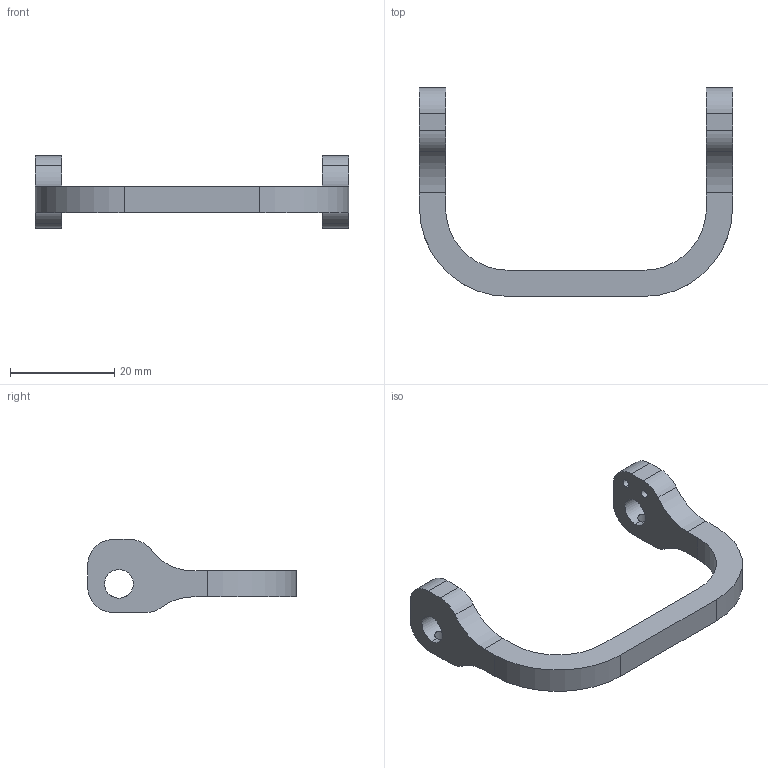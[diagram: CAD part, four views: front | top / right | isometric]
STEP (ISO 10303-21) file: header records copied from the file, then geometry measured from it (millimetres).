
FILE_DESCRIPTION (( 'STEP AP203' ), '1' );
FILE_NAME ('连接轴.STEP', '2026-08-07T08:59:00', ( '微软用户' ), ( '微软中国' ), 'SwSTEP 2.0', 'SolidWorks 2024', '' );
FILE_SCHEMA (( 'CONFIG_CONTROL_DESIGN' ));
Length unit declared in the file: millimetre
Products named in the file (1): 连接轴
Bounding box: 60 x 40 x 14 mm (x, y, z)
Volume: 3801.9 mm3; surface area: 3078.7 mm2
Topology: 1 solids, 1 shells, 42 faces, 128 edges, 84 vertices
Faces by surface type: cylinder 28, plane 14
Entity records: 1645 total; most frequent: CARTESIAN_POINT 357, DIRECTION 262, ORIENTED_EDGE 256, EDGE_CURVE 128, AXIS2_PLACEMENT_3D 97, VERTEX_POINT 84, LINE 68, VECTOR 68
